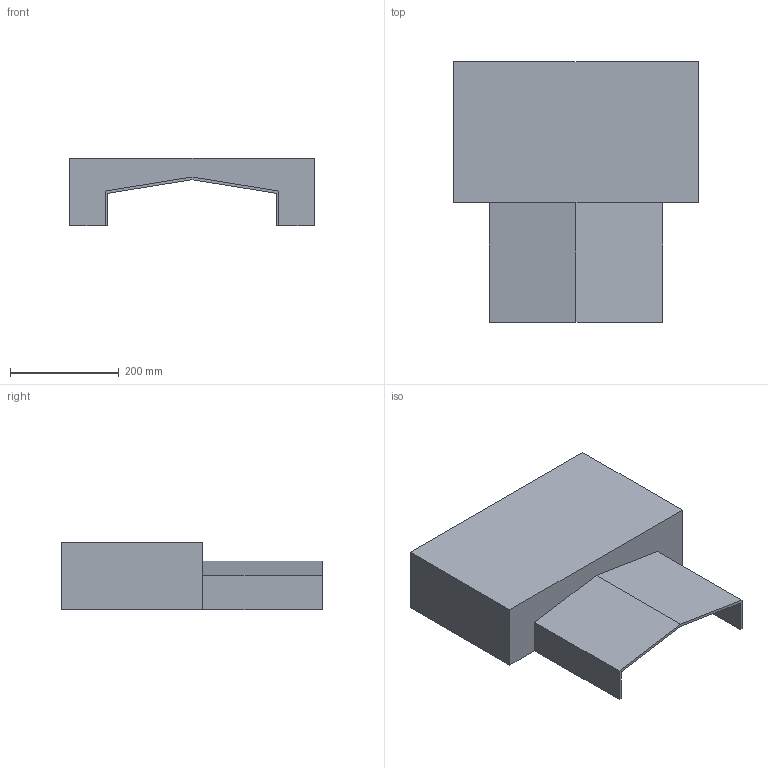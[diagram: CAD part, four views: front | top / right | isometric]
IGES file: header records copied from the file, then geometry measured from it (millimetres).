
Start section: SolidWorks IGES FILE using analytic representation for surfaces
Global section: file name: C:\Documents and Settings\admin-prod\Mes documents\Cu-3axes-realmeca-sw2003\cu-3axes-real-axeX.IGS; native system: SolidWorks 2003 by SolidWorks Corporation; preprocessor: Version 5.3; author: admin-prod; date: 070509.135609; units: millimetre
Bounding box: 450 x 480 x 125 mm (x, y, z)
Surface area: 596056.5 mm2 (no closed solid volume)
Topology: 0 solids, 0 shells, 16 faces, 84 edges, 84 vertices
Faces by surface type: bspline 16
